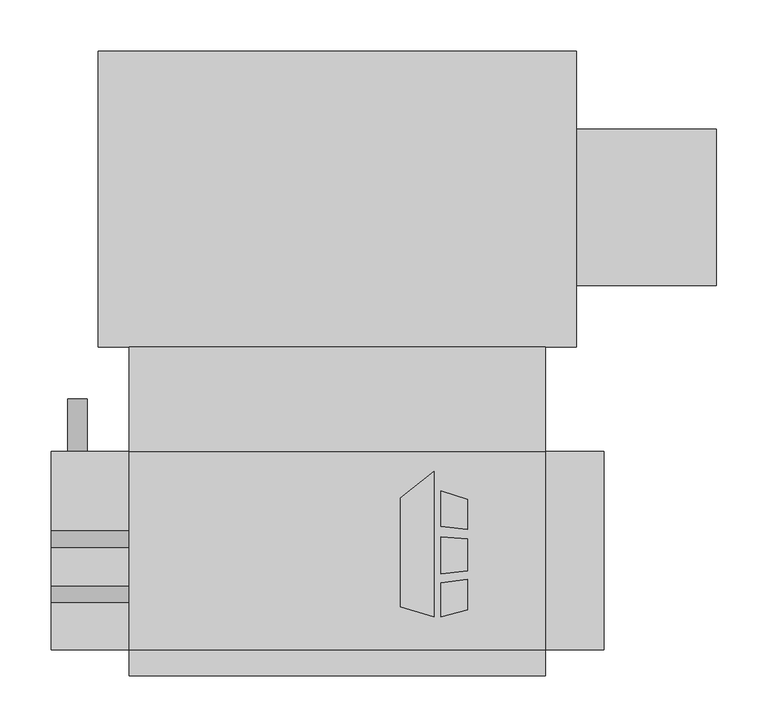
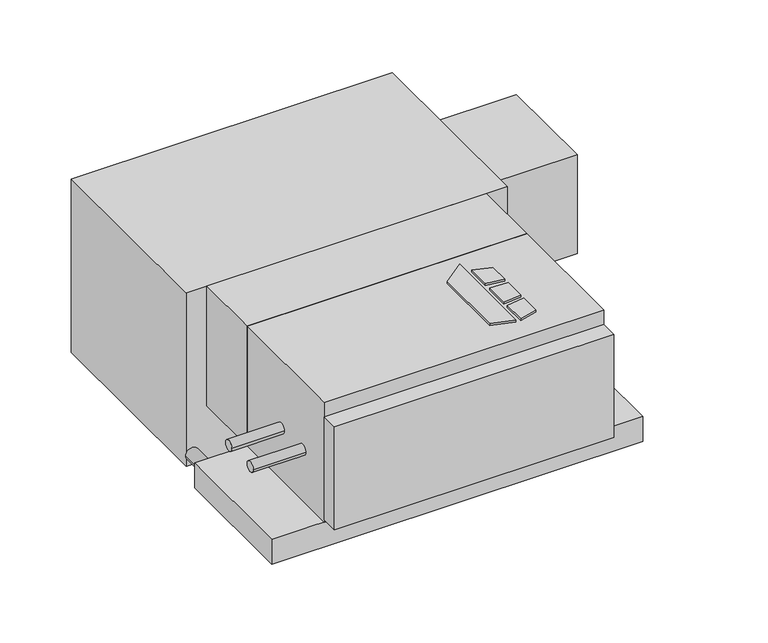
"""IFC4 building model written with IfcOpenShell, lengths in millimetres: proxy geometry, Concealed_Horizontal_Fan_Coil_Unit_With_Plenum_-_CPY_-_IEC_-_2-Pipe_Cool-EHeat_LH_2022 : Size 02 - 277v/60Hz/1Ph - 4 Row 2.0kW."""

from ifc_helpers import new_model, si_unit, point, frame, frame_2d, origin, origin_with_axes, place, context, project, spatial, polyline, circle_curve, trimmed, segment, composite_curve, outline, extrude, source, transform, mapped, element, save


def mechanical_equipment_d7664b9c(model_context):
    return source(origin(), model_context, "Body", "SweptSolid", [
        extrude(outline(polyline([(214.0019761, -186.6953476), (246.5602728, -161.2580184), (246.5602728, -303.2125), (214.0019761, -292.9929201), (214.0019761, -186.6953476)])), origin_with_axes(), (0.0, 0.0, 1.0), 3.175),
        extrude(outline(polyline([(253.3186058, -214.567352), (253.3186058, -180.0874379), (279.4, -188.2740115), (279.4, -217.7697446), (253.3186058, -214.567352)])), origin_with_axes(), (0.0, 0.0, 1.0), 3.175),
        extrude(outline(polyline([(279.4, -296.2240115), (253.3186058, -303.2125), (253.3186058, -269.9911996), (279.4, -266.4493564), (279.4, -296.2240115)])), origin_with_axes(), (0.0, 0.0, 1.0), 3.175),
        extrude(outline(polyline([(279.4, -226.8513277), (279.4, -258.101483), (253.3186058, -260.842748), (253.3186058, -224.9850378), (279.4, -226.8513277)])), origin_with_axes(), (0.0, 0.0, 1.0), 3.175),
        extrude(outline(composite_curve([segment(trimmed(circle_curve(frame_2d((-280.9875, -104.775)), 7.9375), [point((-288.925, -104.775))], [point((-273.05, -104.775))], False, "CARTESIAN"), True, "CONTINUOUS"), segment(trimmed(circle_curve(frame_2d((-280.9875, -104.775)), 7.9375), [point((-273.05, -104.775))], [point((-288.925, -104.775))], False, "CARTESIAN"), True, "CONTINUOUS")], self_intersect=False)), frame((-127.0, 0.0, 0.0), z_axis=(1.0, 0.0, 0.0), x_axis=(0.0, 1.0, 0.0)), (0.0, 0.0, 1.0), 76.2),
        extrude(outline(composite_curve([segment(trimmed(circle_curve(frame_2d((-227.0125, -104.775)), 7.9375), [point((-234.95, -104.775))], [point((-219.075, -104.775))], False, "CARTESIAN"), True, "CONTINUOUS"), segment(trimmed(circle_curve(frame_2d((-227.0125, -104.775)), 7.9375), [point((-219.075, -104.775))], [point((-234.95, -104.775))], False, "CARTESIAN"), True, "CONTINUOUS")], self_intersect=False)), frame((-127.0, 0.0, 0.0), z_axis=(1.0, 0.0, 0.0), x_axis=(0.0, 1.0, 0.0)), (0.0, 0.0, 1.0), 76.2),
        extrude(outline(composite_curve([segment(trimmed(circle_curve(frame_2d((-209.55, -101.6)), 9.525), [point((-209.55, -111.125))], [point((-209.55, -92.075))], False, "CARTESIAN"), True, "CONTINUOUS"), segment(trimmed(circle_curve(frame_2d((-209.55, -101.6)), 9.525), [point((-209.55, -92.075))], [point((-209.55, -111.125))], False, "CARTESIAN"), True, "CONTINUOUS")], self_intersect=False)), frame((0.0, -141.2875, 0.0), z_axis=(0.0, 1.0, 0.0), x_axis=(0.0, 0.0, 1.0)), (0.0, 0.0, 1.0), 50.8),
        extrude(outline(polyline([(-50.8, -39.6875), (355.6, -39.6875), (355.6, -141.2875), (-50.8, -141.2875), (-50.8, -39.6875)])), frame((0.0, 0.0, -184.15), z_axis=(0.0, 0.0, 1.0), x_axis=(1.0, 0.0, 0.0)), (0.0, 0.0, 1.0), 184.15),
        extrude(outline(polyline([(355.6, -360.3625), (-50.8, -360.3625), (-50.8, -334.9625), (355.6, -334.9625), (355.6, -360.3625)])), frame((0.0, 0.0, -180.975), z_axis=(0.0, 0.0, 1.0), x_axis=(1.0, 0.0, 0.0)), (0.0, 0.0, 1.0), 158.75),
        extrude(outline(polyline([(522.2875, 173.0375), (522.2875, 20.6375), (385.7625, 20.6375), (385.7625, 173.0375), (522.2875, 173.0375)])), frame((0.0, 0.0, -187.325), z_axis=(0.0, 0.0, 1.0), x_axis=(1.0, 0.0, 0.0)), (0.0, 0.0, 1.0), 152.4),
        extrude(outline(polyline([(-80.9625, 249.2375), (385.7625, 249.2375), (385.7625, -39.6875), (-80.9625, -39.6875), (-80.9625, 249.2375)])), frame((0.0, 0.0, -266.7), z_axis=(0.0, 0.0, 1.0), x_axis=(1.0, 0.0, 0.0)), (0.0, 0.0, 1.0), 266.7),
        extrude(outline(polyline([(355.6, -141.2875), (355.6, -334.9625), (-50.8, -334.9625), (-50.8, -141.2875), (355.6, -141.2875)])), frame((0.0, 0.0, -184.15), z_axis=(0.0, 0.0, 1.0), x_axis=(1.0, 0.0, 0.0)), (0.0, 0.0, 1.0), 184.15),
        extrude(outline(polyline([(412.75, -141.2875), (412.75, -334.9625), (-127.0, -334.9625), (-127.0, -141.2875), (412.75, -141.2875)])), frame((0.0, 0.0, -222.25), z_axis=(0.0, 0.0, 1.0), x_axis=(1.0, 0.0, 0.0)), (0.0, 0.0, 1.0), 38.1),
    ])


if __name__ == "__main__":
    model = new_model("IFC4")
    model_context = context("Model", 3, world=origin())
    ifc_project = project(units=[si_unit("LENGTHUNIT", "METRE", prefix="MILLI")], contexts=[model_context])
    site = spatial("IfcSite", under=ifc_project)
    building = spatial("IfcBuilding", under=site)
    placement = place(None, origin())
    mechanical_equipment_shape = mechanical_equipment_d7664b9c(model_context)
    element("IfcBuildingElementProxy", 1, Name="Concealed_Horizontal_Fan_Coil_Unit_With_Plenum_-_CPY_-_IEC_-_2-Pipe_Cool-EHeat_LH_2022 : Size 02 - 277v/60Hz/1Ph - 4 Row 2.0kW", ObjectType="Concealed_Horizontal_Fan_Coil_Unit_With_Plenum_-_CPY_-_IEC_-_2-Pipe_Cool-EHeat_LH_2022 : Size 02 - 277v/60Hz/1Ph - 4 Row 2.0kW", at=placement, inside=building, context=model_context, shape_type="MappedRepresentation", body=[
        mapped(mechanical_equipment_shape, transform((0.0, 0.0, 0.0), x_axis=(1.0, 0.0, 0.0), y_axis=(0.0, 1.0, 0.0), z_axis=(0.0, 0.0, 1.0))),
    ])
    save(model, "model.ifc")
